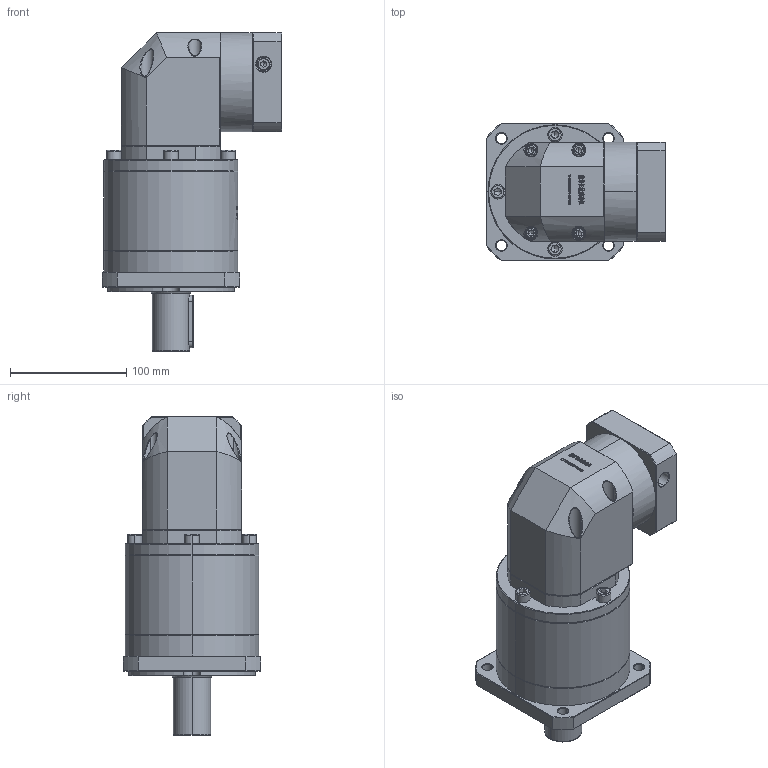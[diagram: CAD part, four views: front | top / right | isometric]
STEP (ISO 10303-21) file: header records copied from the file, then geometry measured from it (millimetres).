
FILE_DESCRIPTION (( 'STEP AP214' ), '1' );
FILE_NAME ('ZFR120A-D32-L3-19-70-90-M6.step', '2023-03-08T05:49:56', ( '' ), ( '' ), 'SwSTEP 2.0', 'SolidWorks 2016', '' );
FILE_SCHEMA (( 'AUTOMOTIVE_DESIGN' ));
Length unit declared in the file: millimetre
Products named in the file (1): ZFR120A-D32-L3-19-70-90-M6
Bounding box: 154.1 x 118 x 273.5 mm (x, y, z)
Volume: 2166927.9 mm3; surface area: 181890 mm2
Topology: 6 solids, 6 shells, 2999 faces, 7963 edges, 5110 vertices
Faces by surface type: plane 1578, bspline 625, cylinder 453, cone 329, torus 14
Entity records: 163944 total; most frequent: CARTESIAN_POINT 62474, ORIENTED_EDGE 15834, DIRECTION 11661, EDGE_CURVE 7917, VERTEX_POINT 5110, VECTOR 4929, LINE 4929, AXIS2_PLACEMENT_3D 3366
